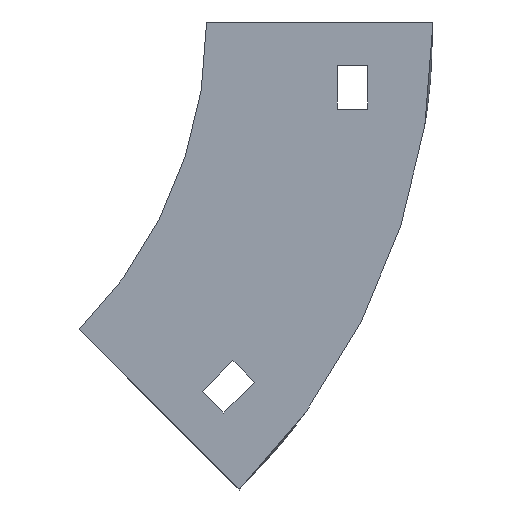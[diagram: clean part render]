
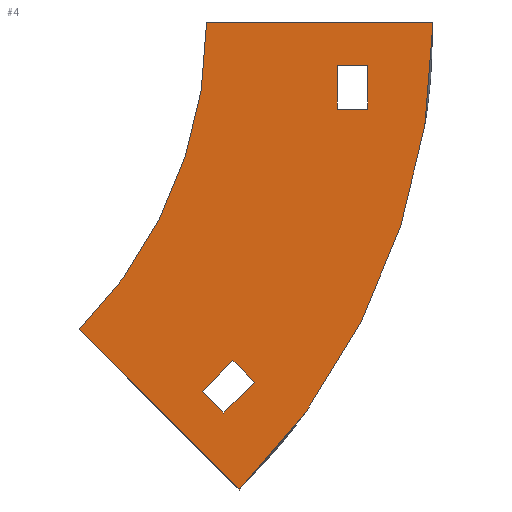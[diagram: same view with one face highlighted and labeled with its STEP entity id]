
A CAD part, left-side view. The second image highlights one B-rep face of the part: STEP entity #4.
In plain terms, the highlighted planar face has unit normal (-1, 0, 0).
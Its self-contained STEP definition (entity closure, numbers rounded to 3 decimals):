
#3 = CARTESIAN_POINT ( 'NONE',  ( -302., 1.005, -84.853 ) ) ;
#4 = ADVANCED_FACE ( 'NONE', ( #111, #739, #1074 ), #743, .F. ) ;
#7 = CARTESIAN_POINT ( 'NONE',  ( -302., 100., 0. ) ) ;
#16 = EDGE_CURVE ( 'NONE', #52, #868, #26, .T. ) ;
#22 = CARTESIAN_POINT ( 'NONE',  ( -302., -30., -10. ) ) ;
#26 = LINE ( 'NONE', #22, #796 ) ;
#27 = EDGE_CURVE ( 'NONE', #242, #431, #635, .T. ) ;
#40 = LINE ( 'NONE', #755, #458 ) ;
#51 = EDGE_CURVE ( 'NONE', #1020, #62, #906, .T. ) ;
#52 = VERTEX_POINT ( 'NONE', #851 ) ;
#62 = VERTEX_POINT ( 'NONE', #1001 ) ;
#73 = EDGE_CURVE ( 'NONE', #492, #762, #385, .T. ) ;
#88 = CARTESIAN_POINT ( 'NONE',  ( -302., -52., 0. ) ) ;
#100 = EDGE_CURVE ( 'NONE', #868, #242, #40, .T. ) ;
#102 = DIRECTION ( 'NONE',  ( 0., 0., -1. ) ) ;
#109 = DIRECTION ( 'NONE',  ( 0., -0.707, -0.707 ) ) ;
#110 = CARTESIAN_POINT ( 'NONE',  ( -302., -3.945, -89.803 ) ) ;
#111 = FACE_OUTER_BOUND ( 'NONE', #388, .T. ) ;
#136 = AXIS2_PLACEMENT_3D ( 'NONE', #195, #1082, #376 ) ;
#178 = LINE ( 'NONE', #1061, #437 ) ;
#184 = EDGE_CURVE ( 'NONE', #526, #1026, #560, .T. ) ;
#195 = CARTESIAN_POINT ( 'NONE',  ( -302., 100., 0. ) ) ;
#200 = DIRECTION ( 'NONE',  ( 0., 1., 0. ) ) ;
#220 = CARTESIAN_POINT ( 'NONE',  ( -302., 100., 0. ) ) ;
#241 = CARTESIAN_POINT ( 'NONE',  ( -302., -37., -10. ) ) ;
#242 = VERTEX_POINT ( 'NONE', #737 ) ;
#248 = DIRECTION ( 'NONE',  ( 0., 0., 1. ) ) ;
#250 = ORIENTED_EDGE ( 'NONE', *, *, #51, .F. ) ;
#263 = ORIENTED_EDGE ( 'NONE', *, *, #1087, .F. ) ;
#277 = VERTEX_POINT ( 'NONE', #527 ) ;
#284 = CARTESIAN_POINT ( 'NONE',  ( -302., 1.005, -84.853 ) ) ;
#293 = CARTESIAN_POINT ( 'NONE',  ( -302., -6.066, -77.782 ) ) ;
#296 = CARTESIAN_POINT ( 'NONE',  ( -302., -52., 0. ) ) ;
#308 = CARTESIAN_POINT ( 'NONE',  ( -302., -7.48, -107.48 ) ) ;
#332 = VECTOR ( 'NONE', #748, 1000. ) ;
#376 = DIRECTION ( 'NONE',  ( 0., 0., -1. ) ) ;
#380 = DIRECTION ( 'NONE',  ( 0., -1., 0. ) ) ;
#385 = LINE ( 'NONE', #787, #647 ) ;
#388 = EDGE_LOOP ( 'NONE', ( #1110, #1144, #688, #263 ) ) ;
#431 = VERTEX_POINT ( 'NONE', #539 ) ;
#437 = VECTOR ( 'NONE', #633, 1000. ) ;
#458 = VECTOR ( 'NONE', #1102, 1000. ) ;
#489 = ORIENTED_EDGE ( 'NONE', *, *, #100, .T. ) ;
#492 = VERTEX_POINT ( 'NONE', #308 ) ;
#500 = CARTESIAN_POINT ( 'NONE',  ( -302., 29.289, -70.711 ) ) ;
#504 = EDGE_CURVE ( 'NONE', #965, #492, #1131, .T. ) ;
#526 = VERTEX_POINT ( 'NONE', #663 ) ;
#527 = CARTESIAN_POINT ( 'NONE',  ( -302., 0., 0. ) ) ;
#528 = LINE ( 'NONE', #3, #1090 ) ;
#539 = CARTESIAN_POINT ( 'NONE',  ( -302., -30., -20. ) ) ;
#547 = DIRECTION ( 'NONE',  ( -1., 0., 0. ) ) ;
#548 = ORIENTED_EDGE ( 'NONE', *, *, #938, .F. ) ;
#560 = LINE ( 'NONE', #284, #819 ) ;
#578 = EDGE_LOOP ( 'NONE', ( #634, #696, #489, #1103 ) ) ;
#633 = DIRECTION ( 'NONE',  ( 0., -0.707, 0.707 ) ) ;
#634 = ORIENTED_EDGE ( 'NONE', *, *, #758, .T. ) ;
#635 = LINE ( 'NONE', #899, #778 ) ;
#647 = VECTOR ( 'NONE', #674, 1000. ) ;
#663 = CARTESIAN_POINT ( 'NONE',  ( -302., 1.005, -84.853 ) ) ;
#666 = DIRECTION ( 'NONE',  ( 0., 0.707, 0.707 ) ) ;
#672 = AXIS2_PLACEMENT_3D ( 'NONE', #7, #547, #890 ) ;
#674 = DIRECTION ( 'NONE',  ( 0., 0.707, 0.707 ) ) ;
#688 = ORIENTED_EDGE ( 'NONE', *, *, #504, .F. ) ;
#696 = ORIENTED_EDGE ( 'NONE', *, *, #16, .T. ) ;
#701 = LINE ( 'NONE', #788, #920 ) ;
#737 = CARTESIAN_POINT ( 'NONE',  ( -302., -37., -20. ) ) ;
#739 = FACE_BOUND ( 'NONE', #578, .T. ) ;
#743 = PLANE ( 'NONE',  #136 ) ;
#748 = DIRECTION ( 'NONE',  ( 0., -1., 0. ) ) ;
#755 = CARTESIAN_POINT ( 'NONE',  ( -302., -37., -10. ) ) ;
#758 = EDGE_CURVE ( 'NONE', #431, #52, #701, .T. ) ;
#762 = VERTEX_POINT ( 'NONE', #500 ) ;
#778 = VECTOR ( 'NONE', #200, 1000. ) ;
#787 = CARTESIAN_POINT ( 'NONE',  ( -302., 29.289, -70.711 ) ) ;
#788 = CARTESIAN_POINT ( 'NONE',  ( -302., -30., -10. ) ) ;
#796 = VECTOR ( 'NONE', #380, 1000. ) ;
#804 = AXIS2_PLACEMENT_3D ( 'NONE', #220, #1080, #102 ) ;
#819 = VECTOR ( 'NONE', #109, 1000. ) ;
#821 = EDGE_LOOP ( 'NONE', ( #1051, #962, #250, #548 ) ) ;
#842 = CARTESIAN_POINT ( 'NONE',  ( -302., -11.016, -82.731 ) ) ;
#851 = CARTESIAN_POINT ( 'NONE',  ( -302., -30., -10. ) ) ;
#868 = VERTEX_POINT ( 'NONE', #241 ) ;
#890 = DIRECTION ( 'NONE',  ( 0., 0., -1. ) ) ;
#899 = CARTESIAN_POINT ( 'NONE',  ( -302., -30., -20. ) ) ;
#906 = LINE ( 'NONE', #293, #1024 ) ;
#920 = VECTOR ( 'NONE', #248, 1000. ) ;
#924 = EDGE_CURVE ( 'NONE', #62, #526, #528, .T. ) ;
#938 = EDGE_CURVE ( 'NONE', #1026, #1020, #178, .T. ) ;
#962 = ORIENTED_EDGE ( 'NONE', *, *, #924, .F. ) ;
#965 = VERTEX_POINT ( 'NONE', #88 ) ;
#989 = EDGE_CURVE ( 'NONE', #762, #277, #1134, .T. ) ;
#1001 = CARTESIAN_POINT ( 'NONE',  ( -302., -6.066, -77.782 ) ) ;
#1020 = VERTEX_POINT ( 'NONE', #842 ) ;
#1024 = VECTOR ( 'NONE', #666, 1000. ) ;
#1026 = VERTEX_POINT ( 'NONE', #110 ) ;
#1051 = ORIENTED_EDGE ( 'NONE', *, *, #184, .F. ) ;
#1061 = CARTESIAN_POINT ( 'NONE',  ( -302., -3.945, -89.803 ) ) ;
#1070 = DIRECTION ( 'NONE',  ( 0., 0.707, -0.707 ) ) ;
#1074 = FACE_BOUND ( 'NONE', #821, .T. ) ;
#1080 = DIRECTION ( 'NONE',  ( 1., 0., 0. ) ) ;
#1082 = DIRECTION ( 'NONE',  ( 1., 0., 0. ) ) ;
#1086 = LINE ( 'NONE', #296, #332 ) ;
#1087 = EDGE_CURVE ( 'NONE', #277, #965, #1086, .T. ) ;
#1090 = VECTOR ( 'NONE', #1070, 1000. ) ;
#1102 = DIRECTION ( 'NONE',  ( 0., 0., -1. ) ) ;
#1103 = ORIENTED_EDGE ( 'NONE', *, *, #27, .T. ) ;
#1110 = ORIENTED_EDGE ( 'NONE', *, *, #989, .F. ) ;
#1131 = CIRCLE ( 'NONE', #804, 152. ) ;
#1134 = CIRCLE ( 'NONE', #672, 100. ) ;
#1144 = ORIENTED_EDGE ( 'NONE', *, *, #73, .F. ) ;
